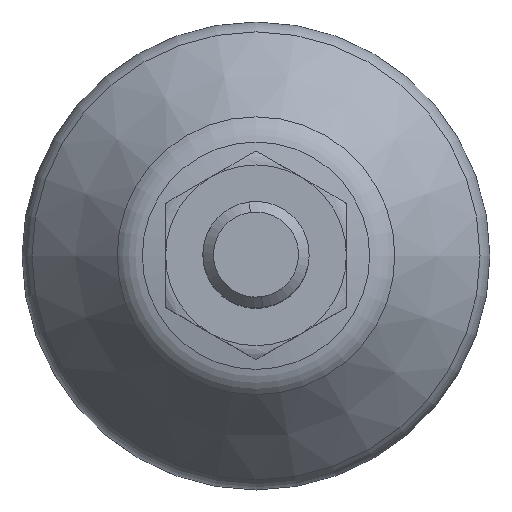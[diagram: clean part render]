
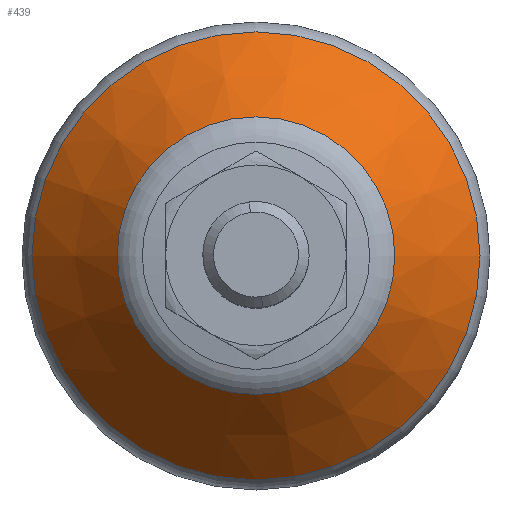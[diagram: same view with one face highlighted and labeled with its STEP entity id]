
A CAD part, top view. The second image highlights one B-rep face of the part: STEP entity #439.
In plain terms, the highlighted conical face has half-angle 40 degrees and reference radius 13.057 mm.
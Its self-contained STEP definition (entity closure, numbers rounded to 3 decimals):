
#439=ADVANCED_FACE('',(#752,#753),#754,.T.);
#752=FACE_BOUND('',#1034,.T.);
#753=FACE_OUTER_BOUND('',#1035,.T.);
#754=CONICAL_SURFACE('',#1036,13.057,0.698);
#1034=EDGE_LOOP('',(#1709));
#1035=EDGE_LOOP('',(#1710));
#1036=AXIS2_PLACEMENT_3D('',#1711,#1712,#1713);
#1709=ORIENTED_EDGE('',*,*,#1947,.T.);
#1710=ORIENTED_EDGE('',*,*,#1966,.F.);
#1711=CARTESIAN_POINT('',(0.0,0.0,16.114));
#1712=DIRECTION('',(-0.0,0.0,-1.0));
#1713=DIRECTION('',(-1.0,0.0,0.0));
#1947=EDGE_CURVE('',#2305,#2305,#2306,.T.);
#1966=EDGE_CURVE('',#2334,#2334,#2335,.T.);
#2305=VERTEX_POINT('',#3169);
#2306=CIRCLE('',#3170,13.057);
#2334=VERTEX_POINT('',#3198);
#2335=CIRCLE('',#3199,21.064);
#3169=CARTESIAN_POINT('',(-13.057,0.0,16.114));
#3170=AXIS2_PLACEMENT_3D('',#3471,#3472,#3473);
#3198=CARTESIAN_POINT('',(-21.064,0.0,6.571));
#3199=AXIS2_PLACEMENT_3D('',#3501,#3502,#3503);
#3471=CARTESIAN_POINT('',(0.0,0.0,16.114));
#3472=DIRECTION('',(0.0,0.0,-1.0));
#3473=DIRECTION('',(-1.0,0.0,0.0));
#3501=CARTESIAN_POINT('',(0.0,0.0,6.571));
#3502=DIRECTION('',(0.0,0.0,-1.0));
#3503=DIRECTION('',(-1.0,0.0,0.0));
